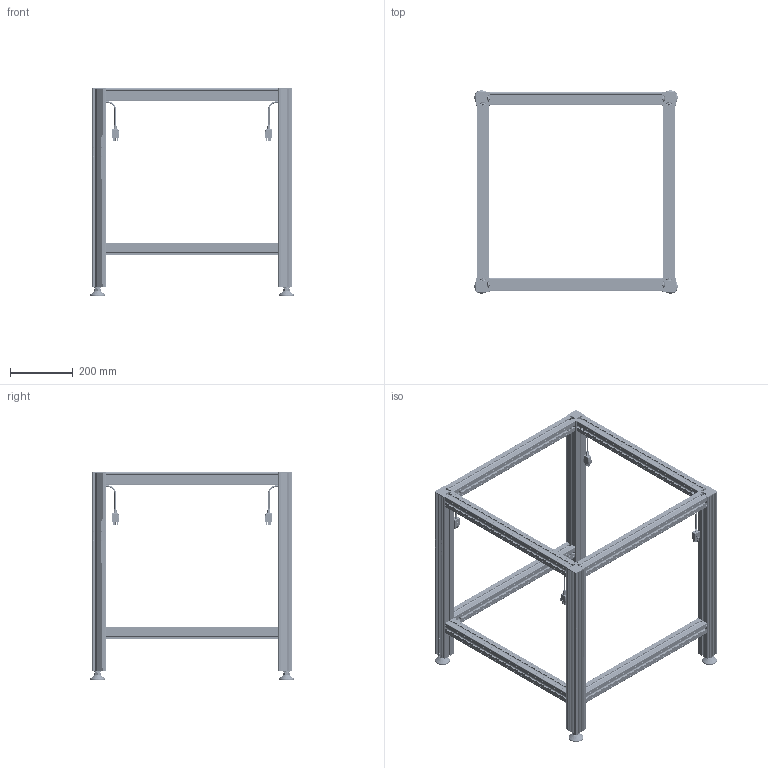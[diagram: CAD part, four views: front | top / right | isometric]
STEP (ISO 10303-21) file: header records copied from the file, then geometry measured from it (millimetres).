
FILE_DESCRIPTION(/* description */ ('Unknown'),/* implementation_level */ '2;1');
FILE_NAME(/* name */ 'Untergestell SQ.3 4330 595 XX XX_00-Eingefahren',/* time_stamp */ '2022-02-04T13:34:36+01:00',/* author */ ('Unknown'),/* organization */ ('Unknown'),/* preprocessor_version */ 'ST-DEVELOPER v18.1',/* originating_system */ 'Solid Edge',/* authorisation */ 'Unknown');
FILE_SCHEMA (('AUTOMOTIVE_DESIGN {1 0 10303 214 3 1 1}'));
Products named in the file (19): Untergestell SQ.3 4330 595 XX XX; 907.02003_oa_0; 142.00014; 119.00500; 122.00005; 142.00020; 123.00110; 125.00051; 128.00040; Kabel Molex; 907.02003_oa_1; 115.00100; 119.00190; 142.00210; 113.00006; 113.00006-ohne Mutter; Mutter M10; 907.02003_oa_2; 907.02003_oa_3
Assembly tree (76 placements, depth 3):
  Untergestell SQ.3 4330 595 XX XX
    907.02003_oa_0
      142.00014  x4
      119.00500
      122.00005
      142.00020  x4
      123.00110
      125.00051
      128.00040
      Kabel Molex
    907.02003_oa_1
      142.00014  x4
      119.00500
      122.00005
      142.00020  x4
      123.00110
      125.00051
      128.00040
      Kabel Molex
    115.00100  x7
      119.00190
      142.00210
    113.00006  x4
      113.00006-ohne Mutter
      Mutter M10
    907.02003_oa_2
      142.00014  x4
      119.00500
      122.00005
      142.00020  x4
      123.00110
      125.00051
      128.00040
      Kabel Molex
    907.02003_oa_3
      142.00014  x4
      119.00500
      122.00005
      142.00020  x4
      123.00110
      125.00051
      128.00040
      Kabel Molex
Bounding box: 651 x 651 x 663 mm (x, y, z)
Volume: 5112715.4 mm3; surface area: 3706630.8 mm2
Topology: 99 solids, 99 shells, 13892 faces, 39146 edges, 25572 vertices
Faces by surface type: plane 7616, cylinder 4786, bspline 700, cone 310, torus 306, sphere 174
Full cylindrical faces by diameter (mm): 2.5 x52, 3 x16, 4 x48, 5 x40, 6.647 x4, 7.8 x14, 8.376 x12, 9.5 x4, 10 x4, 11.3 x14, 11.5 x14, 12 x14, 12.2 x14, 13.5 x14, 15 x4, 17.3 x4, 18 x28, 18.1 x14, 19 x8, 20.8 x12, 21 x8, 25 x12, 29 x4, 30 x8, 35 x4, 39 x4, 47 x4
Entity records: 108350 total; most frequent: CARTESIAN_POINT 24772, ORIENTED_EDGE 17164, DIRECTION 15957, EDGE_CURVE 8582, VERTEX_POINT 5667, AXIS2_PLACEMENT_3D 5336, LINE 5285, VECTOR 5285
